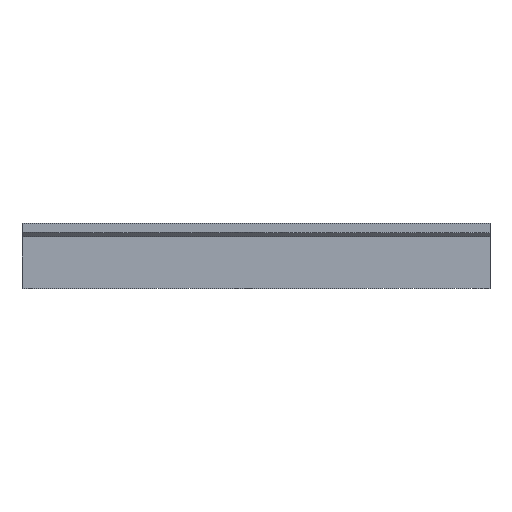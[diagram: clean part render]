
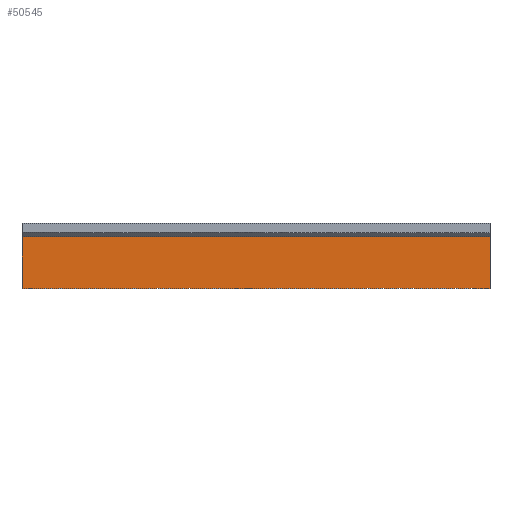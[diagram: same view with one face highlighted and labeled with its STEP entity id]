
A CAD part, front view. The second image highlights one B-rep face of the part: STEP entity #50545.
In plain terms, the highlighted planar face has unit normal (0, -1, 0).
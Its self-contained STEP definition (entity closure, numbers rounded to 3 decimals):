
#32 = PLANE('',#33);
#33 = AXIS2_PLACEMENT_3D('',#34,#35,#36);
#34 = CARTESIAN_POINT('',(-117.,-200.,-1.));
#35 = DIRECTION('',(1.,0.,-0.));
#36 = DIRECTION('',(0.,0.,1.));
#225 = VERTEX_POINT('',#226);
#226 = CARTESIAN_POINT('',(-117.,-176.,25.9));
#244 = B_SPLINE_SURFACE_WITH_KNOTS('',1,1,(
    (#245,#246)
    ,(#247,#248
    )),.UNSPECIFIED.,.F.,.F.,.F.,(2,2),(2,2),(0.,388.2),(0.,1.),
  .PIECEWISE_BEZIER_KNOTS.);
#245 = CARTESIAN_POINT('',(-192.,-176.,25.9));
#246 = CARTESIAN_POINT('',(-194.1,-178.1,28.));
#247 = CARTESIAN_POINT('',(192.,-176.,25.9));
#248 = CARTESIAN_POINT('',(194.1,-178.1,28.));
#258 = EDGE_CURVE('',#259,#225,#261,.T.);
#259 = VERTEX_POINT('',#260);
#260 = CARTESIAN_POINT('',(-117.,-176.,0.));
#261 = SURFACE_CURVE('',#262,(#266,#273),.PCURVE_S1.);
#262 = LINE('',#263,#264);
#263 = CARTESIAN_POINT('',(-117.,-176.,-0.5));
#264 = VECTOR('',#265,1.);
#265 = DIRECTION('',(0.,-0.,1.));
#266 = PCURVE('',#32,#267);
#267 = DEFINITIONAL_REPRESENTATION('',(#268),#272);
#268 = LINE('',#269,#270);
#269 = CARTESIAN_POINT('',(0.5,-24.));
#270 = VECTOR('',#271,1.);
#271 = DIRECTION('',(1.,0.));
#272 = ( GEOMETRIC_REPRESENTATION_CONTEXT(2) 
PARAMETRIC_REPRESENTATION_CONTEXT() REPRESENTATION_CONTEXT('2D SPACE',''
  ) );
#273 = PCURVE('',#274,#279);
#274 = PLANE('',#275);
#275 = AXIS2_PLACEMENT_3D('',#276,#277,#278);
#276 = CARTESIAN_POINT('',(-192.,-176.,0.));
#277 = DIRECTION('',(0.,1.,0.));
#278 = DIRECTION('',(1.,0.,0.));
#279 = DEFINITIONAL_REPRESENTATION('',(#280),#284);
#280 = LINE('',#281,#282);
#281 = CARTESIAN_POINT('',(75.,0.5));
#282 = VECTOR('',#283,1.);
#283 = DIRECTION('',(0.,-1.));
#284 = ( GEOMETRIC_REPRESENTATION_CONTEXT(2) 
PARAMETRIC_REPRESENTATION_CONTEXT() REPRESENTATION_CONTEXT('2D SPACE',''
  ) );
#302 = PLANE('',#303);
#303 = AXIS2_PLACEMENT_3D('',#304,#305,#306);
#304 = CARTESIAN_POINT('',(0.,-2.673,0.));
#305 = DIRECTION('',(0.,0.,1.));
#306 = DIRECTION('',(1.,0.,-0.));
#29945 = PLANE('',#29946);
#29946 = AXIS2_PLACEMENT_3D('',#29947,#29948,#29949);
#29947 = CARTESIAN_POINT('',(117.,-200.,-1.));
#29948 = DIRECTION('',(1.,0.,-0.));
#29949 = DIRECTION('',(0.,0.,1.));
#34242 = VERTEX_POINT('',#34243);
#34243 = CARTESIAN_POINT('',(117.,-176.,25.9));
#34270 = EDGE_CURVE('',#34271,#34242,#34273,.T.);
#34271 = VERTEX_POINT('',#34272);
#34272 = CARTESIAN_POINT('',(117.,-176.,0.));
#34273 = SURFACE_CURVE('',#34274,(#34278,#34285),.PCURVE_S1.);
#34274 = LINE('',#34275,#34276);
#34275 = CARTESIAN_POINT('',(117.,-176.,-0.5));
#34276 = VECTOR('',#34277,1.);
#34277 = DIRECTION('',(0.,-0.,1.));
#34278 = PCURVE('',#29945,#34279);
#34279 = DEFINITIONAL_REPRESENTATION('',(#34280),#34284);
#34280 = LINE('',#34281,#34282);
#34281 = CARTESIAN_POINT('',(0.5,-24.));
#34282 = VECTOR('',#34283,1.);
#34283 = DIRECTION('',(1.,0.));
#34284 = ( GEOMETRIC_REPRESENTATION_CONTEXT(2) 
PARAMETRIC_REPRESENTATION_CONTEXT() REPRESENTATION_CONTEXT('2D SPACE',''
  ) );
#34285 = PCURVE('',#274,#34286);
#34286 = DEFINITIONAL_REPRESENTATION('',(#34287),#34291);
#34287 = LINE('',#34288,#34289);
#34288 = CARTESIAN_POINT('',(309.,0.5));
#34289 = VECTOR('',#34290,1.);
#34290 = DIRECTION('',(0.,-1.));
#34291 = ( GEOMETRIC_REPRESENTATION_CONTEXT(2) 
PARAMETRIC_REPRESENTATION_CONTEXT() REPRESENTATION_CONTEXT('2D SPACE',''
  ) );
#50521 = EDGE_CURVE('',#259,#34271,#50522,.T.);
#50522 = SURFACE_CURVE('',#50523,(#50527,#50534),.PCURVE_S1.);
#50523 = LINE('',#50524,#50525);
#50524 = CARTESIAN_POINT('',(-192.,-176.,0.));
#50525 = VECTOR('',#50526,1.);
#50526 = DIRECTION('',(1.,0.,0.));
#50527 = PCURVE('',#302,#50528);
#50528 = DEFINITIONAL_REPRESENTATION('',(#50529),#50533);
#50529 = LINE('',#50530,#50531);
#50530 = CARTESIAN_POINT('',(-192.,-173.327));
#50531 = VECTOR('',#50532,1.);
#50532 = DIRECTION('',(1.,0.));
#50533 = ( GEOMETRIC_REPRESENTATION_CONTEXT(2) 
PARAMETRIC_REPRESENTATION_CONTEXT() REPRESENTATION_CONTEXT('2D SPACE',''
  ) );
#50534 = PCURVE('',#274,#50535);
#50535 = DEFINITIONAL_REPRESENTATION('',(#50536),#50540);
#50536 = LINE('',#50537,#50538);
#50537 = CARTESIAN_POINT('',(0.,0.));
#50538 = VECTOR('',#50539,1.);
#50539 = DIRECTION('',(1.,0.));
#50540 = ( GEOMETRIC_REPRESENTATION_CONTEXT(2) 
PARAMETRIC_REPRESENTATION_CONTEXT() REPRESENTATION_CONTEXT('2D SPACE',''
  ) );
#50545 = ADVANCED_FACE('',(#50546),#274,.F.);
#50546 = FACE_BOUND('',#50547,.F.);
#50547 = EDGE_LOOP('',(#50548,#50549,#50550,#50570));
#50548 = ORIENTED_EDGE('',*,*,#50521,.F.);
#50549 = ORIENTED_EDGE('',*,*,#258,.T.);
#50550 = ORIENTED_EDGE('',*,*,#50551,.T.);
#50551 = EDGE_CURVE('',#225,#34242,#50552,.T.);
#50552 = SURFACE_CURVE('',#50553,(#50557,#50564),.PCURVE_S1.);
#50553 = LINE('',#50554,#50555);
#50554 = CARTESIAN_POINT('',(-192.,-176.,25.9));
#50555 = VECTOR('',#50556,1.);
#50556 = DIRECTION('',(1.,0.,0.));
#50557 = PCURVE('',#274,#50558);
#50558 = DEFINITIONAL_REPRESENTATION('',(#50559),#50563);
#50559 = LINE('',#50560,#50561);
#50560 = CARTESIAN_POINT('',(0.,-25.9));
#50561 = VECTOR('',#50562,1.);
#50562 = DIRECTION('',(1.,0.));
#50563 = ( GEOMETRIC_REPRESENTATION_CONTEXT(2) 
PARAMETRIC_REPRESENTATION_CONTEXT() REPRESENTATION_CONTEXT('2D SPACE',''
  ) );
#50564 = PCURVE('',#244,#50565);
#50565 = DEFINITIONAL_REPRESENTATION('',(#50566),#50569);
#50566 = B_SPLINE_CURVE_WITH_KNOTS('',1,(#50567,#50568),.UNSPECIFIED.,
  .F.,.F.,(2,2),(0.,384.),.PIECEWISE_BEZIER_KNOTS.);
#50567 = CARTESIAN_POINT('',(0.,0.));
#50568 = CARTESIAN_POINT('',(388.2,0.));
#50569 = ( GEOMETRIC_REPRESENTATION_CONTEXT(2) 
PARAMETRIC_REPRESENTATION_CONTEXT() REPRESENTATION_CONTEXT('2D SPACE',''
  ) );
#50570 = ORIENTED_EDGE('',*,*,#34270,.F.);
